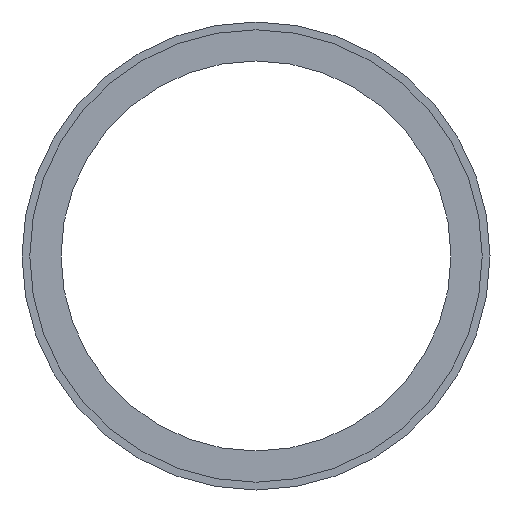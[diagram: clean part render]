
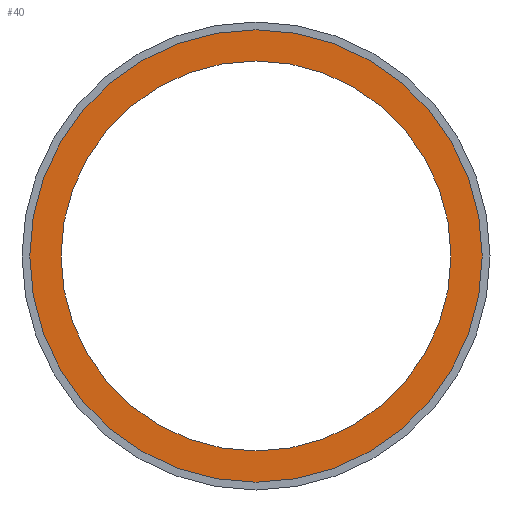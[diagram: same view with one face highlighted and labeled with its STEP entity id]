
A CAD part, front view. The second image highlights one B-rep face of the part: STEP entity #40.
In plain terms, the highlighted planar face has unit normal (0, -1, 0).
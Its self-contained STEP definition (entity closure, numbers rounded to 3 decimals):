
#40 = ADVANCED_FACE( '', ( #81, #82 ), #83, .F. );
#81 = FACE_OUTER_BOUND( '', #120, .T. );
#82 = FACE_BOUND( '', #121, .T. );
#83 = PLANE( '', #122 );
#120 = EDGE_LOOP( '', ( #161 ) );
#121 = EDGE_LOOP( '', ( #162 ) );
#122 = AXIS2_PLACEMENT_3D( '', #163, #164, #165 );
#161 = ORIENTED_EDGE( '', *, *, #191, .T. );
#162 = ORIENTED_EDGE( '', *, *, #186, .F. );
#163 = CARTESIAN_POINT( '', ( 0., 0., 15. ) );
#164 = DIRECTION( '', ( 0., 1., 0. ) );
#165 = DIRECTION( '', ( 0., 0., 1. ) );
#186 = EDGE_CURVE( '', #203, #203, #204, .T. );
#191 = EDGE_CURVE( '', #211, #211, #212, .T. );
#203 = VERTEX_POINT( '', #227 );
#204 = CIRCLE( '', #228, 12.5 );
#211 = VERTEX_POINT( '', #235 );
#212 = CIRCLE( '', #236, 14.5 );
#227 = CARTESIAN_POINT( '', ( 0., 0., -12.5 ) );
#228 = AXIS2_PLACEMENT_3D( '', #251, #252, #253 );
#235 = CARTESIAN_POINT( '', ( 0., 0., -14.5 ) );
#236 = AXIS2_PLACEMENT_3D( '', #260, #261, #262 );
#251 = CARTESIAN_POINT( '', ( 0., 0., 0. ) );
#252 = DIRECTION( '', ( 0., -1., 0. ) );
#253 = DIRECTION( '', ( 0., 0., -1. ) );
#260 = CARTESIAN_POINT( '', ( 0., 0., 0. ) );
#261 = DIRECTION( '', ( 0., -1., 0. ) );
#262 = DIRECTION( '', ( 0., 0., -1. ) );
